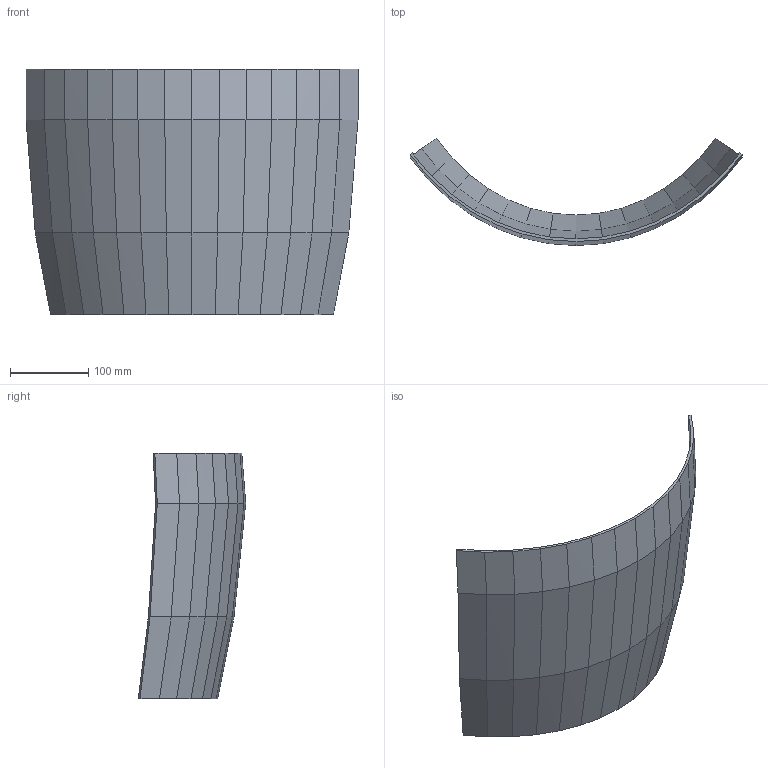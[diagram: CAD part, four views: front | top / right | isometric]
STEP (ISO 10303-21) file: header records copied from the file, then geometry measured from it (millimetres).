
FILE_DESCRIPTION(('Open CASCADE Model'),'2;1');
FILE_NAME('Open CASCADE Shape Model','2026-09-19T23:46:39',('Author'),( 'Open CASCADE'),'Open CASCADE STEP processor 7.9','Open CASCADE 7.9' ,'Unknown');
FILE_SCHEMA(('AUTOMOTIVE_DESIGN { 1 0 10303 214 1 1 1 1 }'));
Length unit declared in the file: millimetre
Products named in the file (1): Open CASCADE STEP translator 7.9 21
Bounding box: 425.53 x 137.7 x 315 mm (x, y, z)
Volume: 521778.1 mm3; surface area: 307301.6 mm2
Topology: 1 solids, 1 shells, 92 faces, 210 edges, 120 vertices
Faces by surface type: bspline 90, plane 2
Entity records: 5020 total; most frequent: CARTESIAN_POINT 1287, DIRECTION 462, LINE 456, VECTOR 456, ORIENTED_EDGE 420, PCURVE 420, DEFINITIONAL_REPRESENTATION 420, EDGE_CURVE 210
